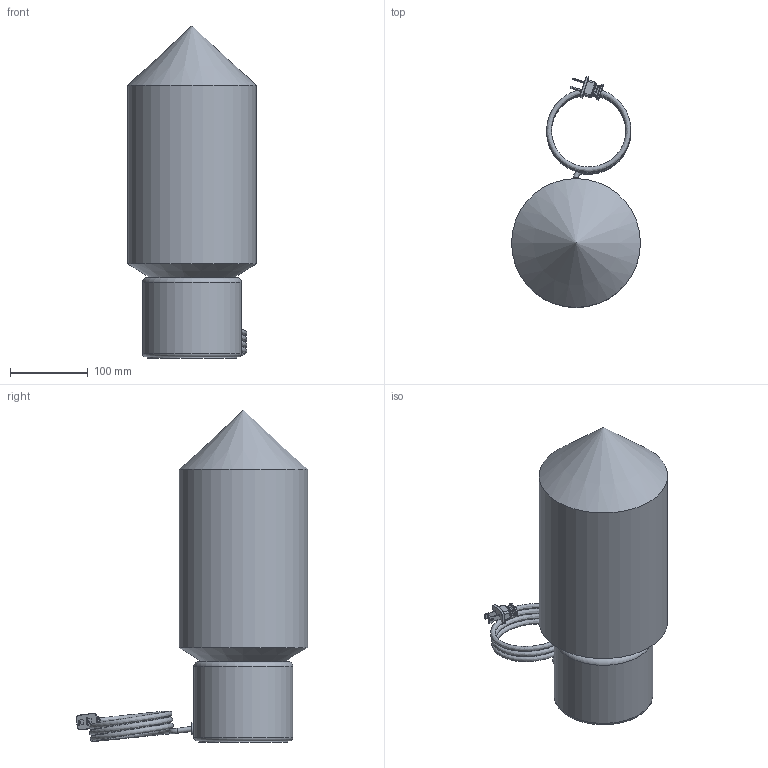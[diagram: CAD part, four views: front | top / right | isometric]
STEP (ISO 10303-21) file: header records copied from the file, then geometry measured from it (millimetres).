
FILE_DESCRIPTION(/* description */ ('','CAx-IF Rec.Pracs.---Representation and Presentation of Product Manufacturing Information (PMI)---4.0---2014-10-13'),/* implementation_level */ '2;1');
FILE_NAME(/* name */ 'Niche - Dart Petite - Ionic Table Lamp - Opalia.step',/* time_stamp */ '2025-02-10T09:02:39-05:00',/* author */ (''),/* organization */ (''),/* preprocessor_version */ 'ST-DEVELOPER v20',/* originating_system */ 'Autodesk Translation Framework v13.20.0.188',/* authorisation */ '');
FILE_SCHEMA (('AP242_MANAGED_MODEL_BASED_3D_ENGINEERING_MIM_LF { 1 0 10303 442 1 1 4 }'));
Length unit declared in the file: inch
Products named in the file (17): Marble Base - Ionic Table Lamp - Ketra Ready - 120V - Opalia Collecti
on; Marble Base - Ionic Table Lamp - Ketra Ready - 120V; Coiled - SVT (Blk Fabric); Marble Base; 90701000093 ¹â°åE27µÆ×ù_¦Õ375
9mm_ºÚÉ«_CEÈÏÖ¤; 90701000096 M10ÑÀ¹Ü_M10L25mmÄÚ¿×¦
Õ7_²ÄÖÊ£ºÌú_¶Æ°×Ð
¿_RoHS; 90701000098 Ñ¹Ïß°å_PP_314612_º
ÚÉ«; 90701000097 M10Áù½Ç±¡ÂÝÄ¸_M10
_²ÄÖÊ£ºÌú_¶Æ°×Ð¿
_RoHS; M10ÄÚ¾â³ÝËø½ôµæÈ¦
_²ÄÖÊ£ºÌú_¶Æ°×Ð¿
_RoHS; Plastic Insert; Silicone Gasket; Neoprene Pad; 2-Pole Plug End; Rubber Grommet; Ketra - A20 Tunable Lamp; Ketra A20; Dart Petite
Assembly tree (16 placements, depth 3):
  Marble Base - Ionic Table Lamp - Ketra Ready - 120V - Opalia Collecti
on
    Marble Base - Ionic Table Lamp - Ketra Ready - 120V
      Coiled - SVT (Blk Fabric)
      Marble Base
      90701000093 ¹â°åE27µÆ×ù_¦Õ375
9mm_ºÚÉ«_CEÈÏÖ¤
      90701000096 M10ÑÀ¹Ü_M10L25mmÄÚ¿×¦
Õ7_²ÄÖÊ£ºÌú_¶Æ°×Ð
¿_RoHS
      90701000098 Ñ¹Ïß°å_PP_314612_º
ÚÉ«
      90701000097 M10Áù½Ç±¡ÂÝÄ¸_M10
_²ÄÖÊ£ºÌú_¶Æ°×Ð¿
_RoHS
      M10ÄÚ¾â³ÝËø½ôµæÈ¦
_²ÄÖÊ£ºÌú_¶Æ°×Ð¿
_RoHS
      Plastic Insert
      Silicone Gasket
      Neoprene Pad
      2-Pole Plug End
      Rubber Grommet
    Ketra - A20 Tunable Lamp
      Ketra A20
    Dart Petite
Bounding box: 165.1 x 296.9 x 425.77 mm (x, y, z)
Volume: 1511867.8 mm3; surface area: 617812.8 mm2
Topology: 14 solids, 15 shells, 1991 faces, 5289 edges, 3474 vertices
Faces by surface type: plane 981, bspline 814, cylinder 131, torus 32, cone 32, sphere 1
Full cylindrical faces by diameter (mm): 3.175 x2, 4.092 x1, 6.35 x2, 7 x1, 7.62 x1, 8.128 x1, 8.3 x1, 8.376 x14, 10 x16, 10.16 x1, 10.5 x1, 10.922 x1, 11 x1, 11.684 x1, 14 x1, 15.24 x2, 16 x1, 21 x1, 25.4 x3, 27 x1, 35.5 x1, 37.5 x1, 39.37 x1, 41.402 x1, 80.518 x1, 82.55 x1, 93.98 x1, 96.52 x1, 98.044 x1, 100.076 x1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
Entity records: 76448 total; most frequent: CARTESIAN_POINT 31815, ORIENTED_EDGE 10570, DIRECTION 6361, EDGE_CURVE 5286, VERTEX_POINT 3474, LINE 3263, VECTOR 3263, EDGE_LOOP 2168
